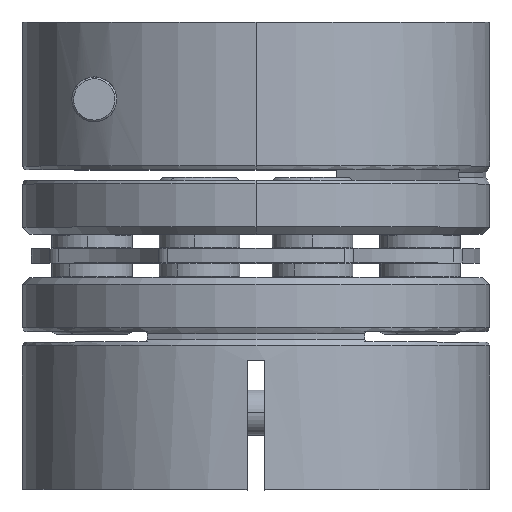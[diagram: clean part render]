
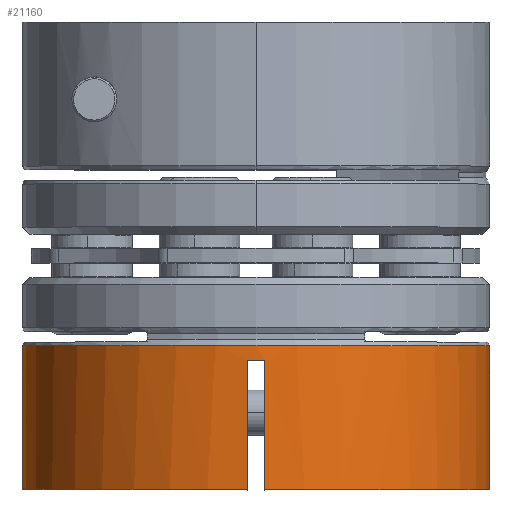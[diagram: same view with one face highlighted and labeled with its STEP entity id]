
A CAD part, top view. The second image highlights one B-rep face of the part: STEP entity #21160.
In plain terms, the highlighted cylindrical face has radius 13 mm (diameter 26 mm), a partial arc.
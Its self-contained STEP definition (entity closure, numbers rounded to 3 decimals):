
#169 = VERTEX_POINT ( 'NONE', #1336 ) ;
#287 = CARTESIAN_POINT ( 'NONE',  ( 1.255, -19.154, 12.99 ) ) ;
#414 = CARTESIAN_POINT ( 'NONE',  ( 14.755, -18.289, 0. ) ) ;
#653 = CARTESIAN_POINT ( 'NONE',  ( 2.255, -14.489, 12.99 ) ) ;
#1336 = CARTESIAN_POINT ( 'NONE',  ( 2.255, -19.154, 12.99 ) ) ;
#1477 = EDGE_CURVE ( 'NONE', #18175, #4052, #13040, .T. ) ;
#1896 = DIRECTION ( 'NONE',  ( -1., 0., 0. ) ) ;
#1936 = AXIS2_PLACEMENT_3D ( 'NONE', #10404, #17728, #1896 ) ;
#2477 = DIRECTION ( 'NONE',  ( 0., -1., 0. ) ) ;
#2956 = AXIS2_PLACEMENT_3D ( 'NONE', #12586, #17711, #21861 ) ;
#3726 = DIRECTION ( 'NONE',  ( 0., -1., 0. ) ) ;
#4052 = VERTEX_POINT ( 'NONE', #19351 ) ;
#4921 = CIRCLE ( 'NONE', #8837, 13. ) ;
#5357 = CARTESIAN_POINT ( 'NONE',  ( 1.922, -19.16, 13.003 ) ) ;
#5782 = B_SPLINE_CURVE_WITH_KNOTS ( 'NONE', 3,
 ( #287, #21601, #5357, #14505 ),
 .UNSPECIFIED., .F., .F.,
 ( 4, 4 ),
 ( 0., 0.001 ),
 .UNSPECIFIED. ) ;
#5848 = CARTESIAN_POINT ( 'NONE',  ( -11.245, -56.94, 0. ) ) ;
#6027 = EDGE_CURVE ( 'NONE', #169, #18534, #15286, .T. ) ;
#6923 = VECTOR ( 'NONE', #2477, 1000. ) ;
#6954 = CARTESIAN_POINT ( 'NONE',  ( 1.255, -26.289, 12.99 ) ) ;
#7268 = VERTEX_POINT ( 'NONE', #13552 ) ;
#7570 = CIRCLE ( 'NONE', #1936, 13. ) ;
#7588 = CARTESIAN_POINT ( 'NONE',  ( 14.755, -56.94, 0. ) ) ;
#7594 = VERTEX_POINT ( 'NONE', #414 ) ;
#8154 = EDGE_CURVE ( 'NONE', #10759, #18175, #4921, .T. ) ;
#8327 = VECTOR ( 'NONE', #20250, 1000. ) ;
#8498 = ORIENTED_EDGE ( 'NONE', *, *, #14081, .F. ) ;
#8515 = FACE_OUTER_BOUND ( 'NONE', #19341, .T. ) ;
#8837 = AXIS2_PLACEMENT_3D ( 'NONE', #14344, #3726, #9047 ) ;
#9047 = DIRECTION ( 'NONE',  ( 1., 0., 0. ) ) ;
#9136 = EDGE_CURVE ( 'NONE', #7268, #18534, #18788, .T. ) ;
#9158 = CARTESIAN_POINT ( 'NONE',  ( -11.245, -26.289, 0. ) ) ;
#9565 = ORIENTED_EDGE ( 'NONE', *, *, #6027, .T. ) ;
#9753 = ORIENTED_EDGE ( 'NONE', *, *, #13340, .T. ) ;
#10404 = CARTESIAN_POINT ( 'NONE',  ( 1.755, -18.289, 0. ) ) ;
#10759 = VERTEX_POINT ( 'NONE', #6954 ) ;
#10962 = ORIENTED_EDGE ( 'NONE', *, *, #9136, .F. ) ;
#11356 = CARTESIAN_POINT ( 'NONE',  ( 2.255, -26.289, 12.99 ) ) ;
#11889 = EDGE_CURVE ( 'NONE', #14306, #169, #5782, .T. ) ;
#12586 = CARTESIAN_POINT ( 'NONE',  ( 1.755, -26.289, 0. ) ) ;
#13040 = LINE ( 'NONE', #5848, #16921 ) ;
#13228 = ORIENTED_EDGE ( 'NONE', *, *, #11889, .T. ) ;
#13340 = EDGE_CURVE ( 'NONE', #7268, #7594, #13440, .T. ) ;
#13440 = LINE ( 'NONE', #7588, #19594 ) ;
#13552 = CARTESIAN_POINT ( 'NONE',  ( 14.755, -26.289, 0. ) ) ;
#13668 = ORIENTED_EDGE ( 'NONE', *, *, #20116, .F. ) ;
#14081 = EDGE_CURVE ( 'NONE', #4052, #7594, #7570, .T. ) ;
#14306 = VERTEX_POINT ( 'NONE', #15071 ) ;
#14344 = CARTESIAN_POINT ( 'NONE',  ( 1.755, -26.289, 0. ) ) ;
#14505 = CARTESIAN_POINT ( 'NONE',  ( 2.255, -19.154, 12.99 ) ) ;
#14739 = DIRECTION ( 'NONE',  ( 0., 1., 0. ) ) ;
#15071 = CARTESIAN_POINT ( 'NONE',  ( 1.255, -19.154, 12.99 ) ) ;
#15286 = LINE ( 'NONE', #653, #8327 ) ;
#16538 = CARTESIAN_POINT ( 'NONE',  ( 1.755, -56.94, 0. ) ) ;
#16613 = DIRECTION ( 'NONE',  ( -1., 0., 0. ) ) ;
#16759 = DIRECTION ( 'NONE',  ( 0., 1., 0. ) ) ;
#16921 = VECTOR ( 'NONE', #21957, 1000. ) ;
#16995 = ORIENTED_EDGE ( 'NONE', *, *, #1477, .F. ) ;
#17050 = ORIENTED_EDGE ( 'NONE', *, *, #8154, .F. ) ;
#17711 = DIRECTION ( 'NONE',  ( 0., -1., 0. ) ) ;
#17728 = DIRECTION ( 'NONE',  ( 0., 1., 0. ) ) ;
#17911 = CARTESIAN_POINT ( 'NONE',  ( 1.255, -14.489, 12.99 ) ) ;
#18175 = VERTEX_POINT ( 'NONE', #9158 ) ;
#18332 = LINE ( 'NONE', #17911, #6923 ) ;
#18534 = VERTEX_POINT ( 'NONE', #11356 ) ;
#18788 = CIRCLE ( 'NONE', #2956, 13. ) ;
#19053 = AXIS2_PLACEMENT_3D ( 'NONE', #16538, #16759, #16613 ) ;
#19341 = EDGE_LOOP ( 'NONE', ( #10962, #9753, #8498, #16995, #17050, #13668, #13228, #9565 ) ) ;
#19351 = CARTESIAN_POINT ( 'NONE',  ( -11.245, -18.289, 0. ) ) ;
#19594 = VECTOR ( 'NONE', #14739, 1000. ) ;
#20116 = EDGE_CURVE ( 'NONE', #14306, #10759, #18332, .T. ) ;
#20250 = DIRECTION ( 'NONE',  ( 0., -1., 0. ) ) ;
#21160 = ADVANCED_FACE ( 'NONE', ( #8515 ), #22461, .T. ) ;
#21601 = CARTESIAN_POINT ( 'NONE',  ( 1.589, -19.16, 13.003 ) ) ;
#21861 = DIRECTION ( 'NONE',  ( 1., 0., 0. ) ) ;
#21957 = DIRECTION ( 'NONE',  ( 0., 1., 0. ) ) ;
#22461 = CYLINDRICAL_SURFACE ( 'NONE', #19053, 13. ) ;
